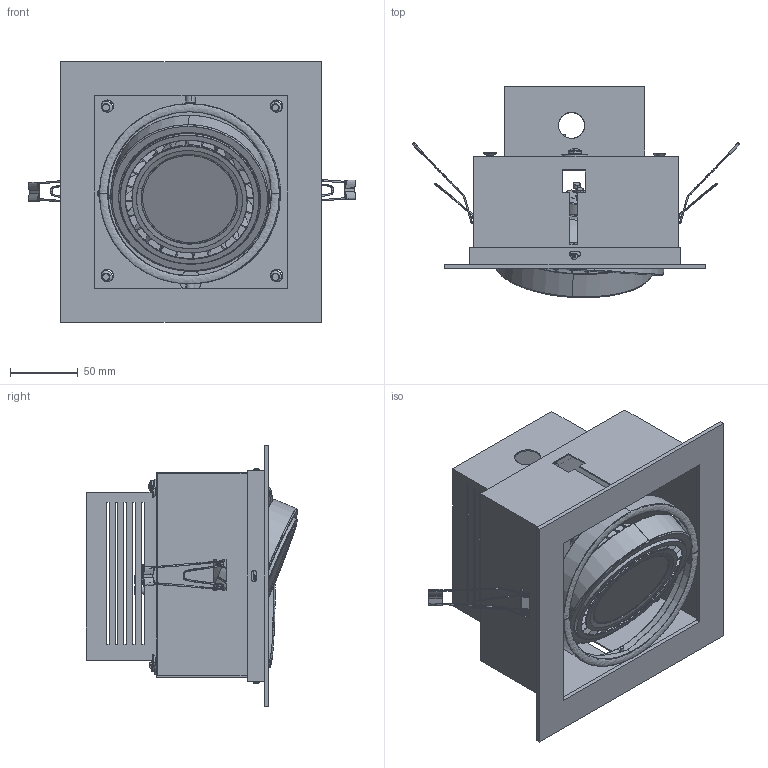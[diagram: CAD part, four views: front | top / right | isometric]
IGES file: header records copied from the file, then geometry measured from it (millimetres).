
Start section: SolidWorks IGES file using analytic representation for surfaces
Global section: file name: C:\Users\joanna.pastusinska\Desktop\MODELE 3D\DOWNLIGHT ES111\Downlight ES111_9571,9573,9575\Downlight ES111_9571,9573,9575.IGS; native system: SolidWorks 2017; preprocessor: SolidWorks 2017; author: joanna.pastusinska; date: 180704.094751; units: millimetre
Bounding box: 241.79 x 156 x 192 mm (x, y, z)
Surface area: 383007.6 mm2 (no closed solid volume)
Topology: 0 solids, 0 shells, 1371 faces, 14925 edges, 14902 vertices
Faces by surface type: bspline 870, revolution 501
